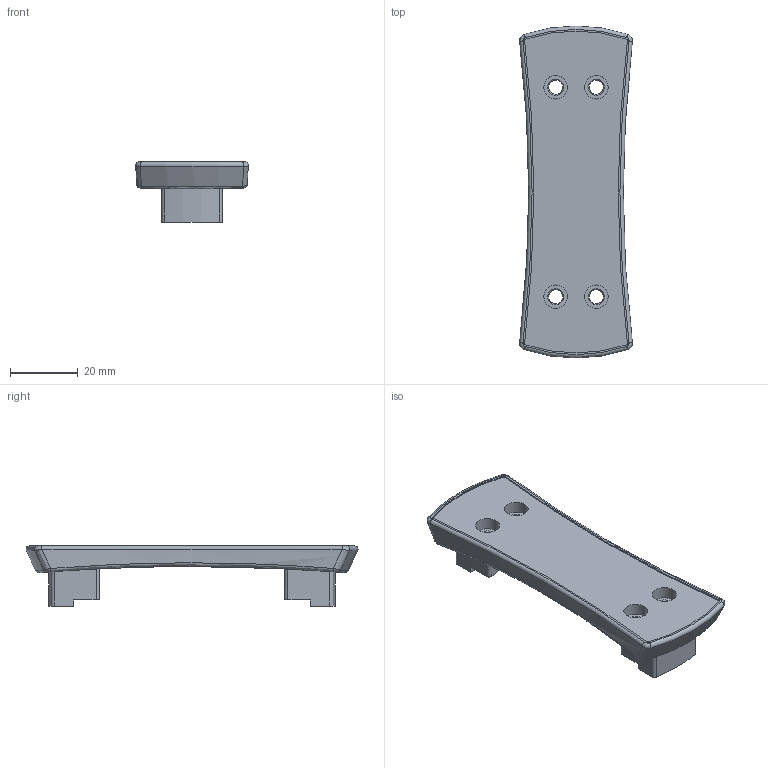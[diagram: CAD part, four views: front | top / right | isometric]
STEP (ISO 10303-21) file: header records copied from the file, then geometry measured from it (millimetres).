
FILE_DESCRIPTION(/* description */ ('STEP AP242 Edition 2','CAx-IF Rec.Pracs.---Representation and Presentation of Product Manufacturing Information (PMI)---4.0---2014-10-13','CAx-IF Rec.Pracs.---3D Tessellated Geometry---0.4---2014-09-14','2;1','CAx-IF Rec.Pracs.---User Defined Attributes---1.5---2016-08-15'),/* implementation_level */ '2;1');
FILE_NAME(/* name */ 'Assy_ForMFG - KD-B-302X_BATT_HANDLE',/* time_stamp */ '2026-05-15T19:56:27Z',/* author */ (''),/* organization */ (''),/* preprocessor_version */ 'ST-DEVELOPER v20',/* originating_system */ 'ONSHAPE BY PTC INC, 1.215',/* authorisation */ ' ');
FILE_SCHEMA (('AP242_MANAGED_MODEL_BASED_3D_ENGINEERING_MIM_LF { 1 0 10303 442 3 1 4 }'));
Length unit declared in the file: metre
Products named in the file (1): KD-B-302X_BATT_HANDLE
Bounding box: 33.37 x 98.25 x 17.8 mm (x, y, z)
Volume: 21577.8 mm3; surface area: 9353.7 mm2
Topology: 1 solids, 1 shells, 73 faces, 184 edges, 120 vertices
Faces by surface type: cylinder 27, bspline 20, plane 16, cone 6, torus 4
Full cylindrical faces by diameter (mm): 4.2 x4, 7 x4
Entity records: 2946 total; most frequent: CARTESIAN_POINT 1413, ORIENTED_EDGE 334, DIRECTION 252, EDGE_CURVE 167, VERTEX_POINT 115, AXIS2_PLACEMENT_3D 110, EDGE_LOOP 100, FACE_BOUND 100
